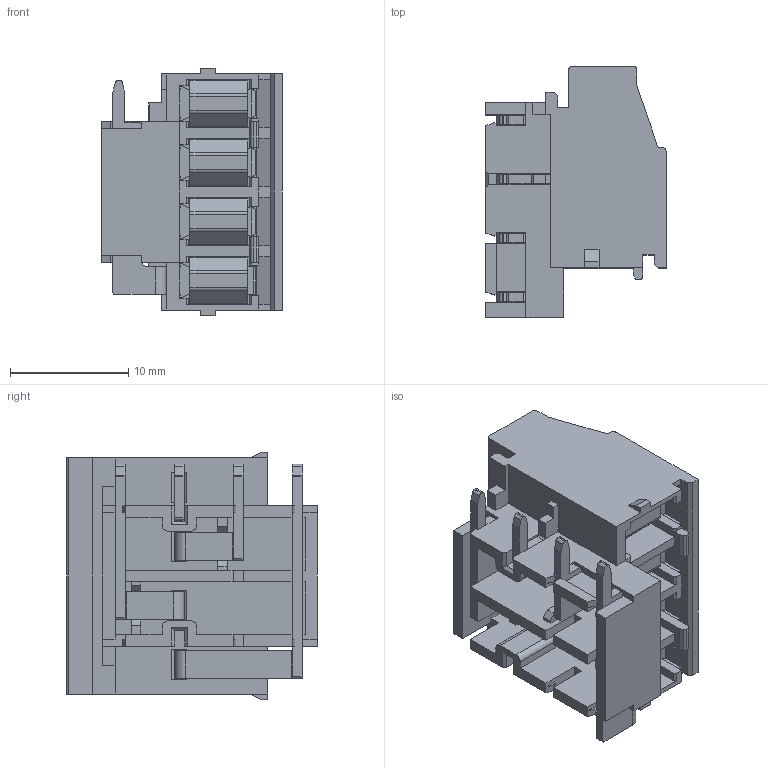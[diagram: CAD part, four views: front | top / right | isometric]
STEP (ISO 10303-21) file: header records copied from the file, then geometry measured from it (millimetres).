
FILE_DESCRIPTION((''),'2;1');
FILE_NAME('E604-L_SW0001','2019-05-05T',('zhenbing.lai'),(''),'CREO PARAMETRIC BY PTC INC, 2016260','CREO PARAMETRIC BY PTC INC, 2016260','');
FILE_SCHEMA(('CONFIG_CONTROL_DESIGN'));
Products named in the file (1): E604-L_SW0001
Bounding box: 15.3 x 21.25 x 21 mm (x, y, z)
Volume: 2499.5 mm3; surface area: 5523.4 mm2
Topology: 1 solids, 1 shells, 1078 faces, 3251 edges, 2107 vertices
Faces by surface type: plane 683, cylinder 243, bspline 84, cone 44, torus 24
Entity records: 55745 total; most frequent: CARTESIAN_POINT 27282, ORIENTED_EDGE 6502, DIRECTION 5169, EDGE_CURVE 3251, VECTOR 2233, LINE 2233, VERTEX_POINT 2107, AXIS2_PLACEMENT_3D 1468
